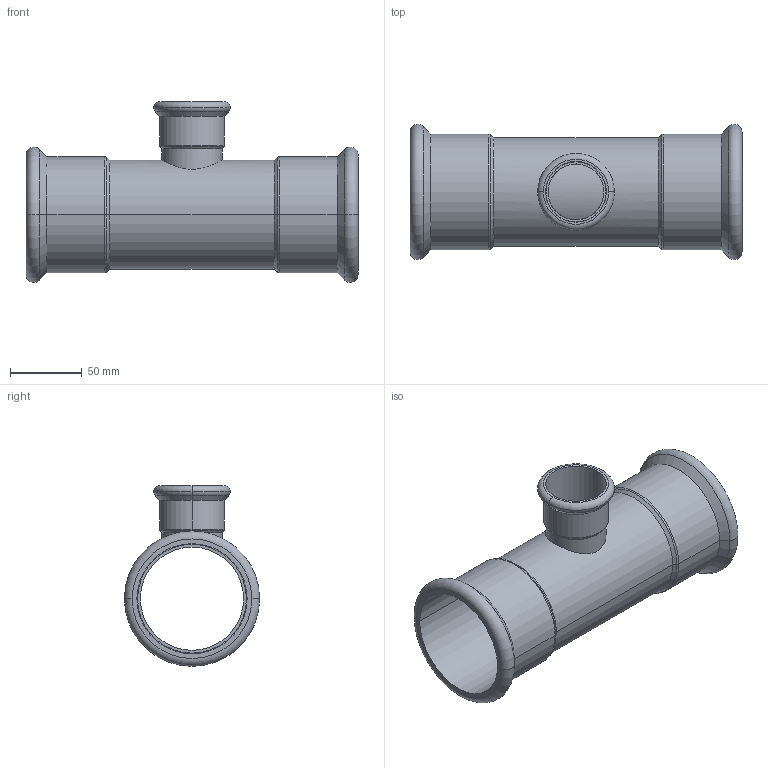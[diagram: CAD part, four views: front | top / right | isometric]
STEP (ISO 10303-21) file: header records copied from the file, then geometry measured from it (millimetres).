
FILE_DESCRIPTION(('CoCreate Modeling STEP Export'),'2;1');
FILE_NAME('C1415 76.1x42x76.1.stp','2014-11-12T10:49:54',(''),(''),'CoCreate Modeling STEP processor for AP214 (Solid Model)','CoCreate Modeling 17.00A 17-Jun-2010 (C) Parametric Technology GmbH','');
FILE_SCHEMA(('AUTOMOTIVE_DESIGN { 1 0 10303 214 1 1 1 1 }'));
Length unit declared in the file: millimetre
Products named in the file (2): C1415_76x42x76
Assembly tree (1 placements, depth 2):
  C1415_76x42x76
    C1415_76x42x76
Bounding box: 232 x 94.48 x 126.24 mm (x, y, z)
Volume: 163366.1 mm3; surface area: 132093.2 mm2
Topology: 1 solids, 1 shells, 62 faces, 127 edges, 75 vertices
Faces by surface type: cylinder 27, torus 14, cone 12, plane 9
Entity records: 2563 total; most frequent: CARTESIAN_POINT 1396, ORIENTED_EDGE 254, DIRECTION 208, EDGE_CURVE 127, AXIS2_PLACEMENT_3D 85, VERTEX_POINT 75, EDGE_LOOP 72, FACE_OUTER_BOUND 62
